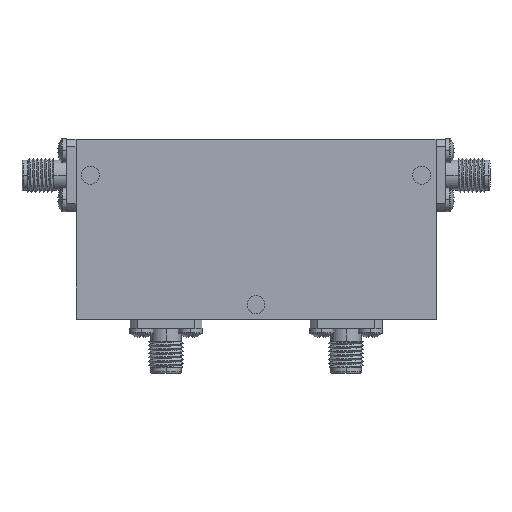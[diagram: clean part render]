
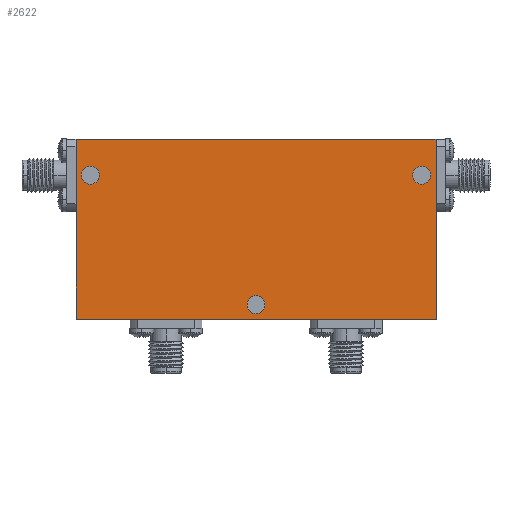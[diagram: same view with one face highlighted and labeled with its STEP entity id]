
A CAD part, top view. The second image highlights one B-rep face of the part: STEP entity #2622.
In plain terms, the highlighted planar face has unit normal (0, 0, 1).
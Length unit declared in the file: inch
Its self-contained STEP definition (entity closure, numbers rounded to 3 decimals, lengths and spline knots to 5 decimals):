
#75 = FACE_OUTER_BOUND ( 'NONE', #1822, .T. ) ;
#114 = DIRECTION ( 'NONE',  ( 0., 0., 1. ) ) ;
#184 = CARTESIAN_POINT ( 'NONE',  ( 0., 0., 0.35 ) ) ;
#218 = CARTESIAN_POINT ( 'NONE',  ( 1.2125, 0.375, 0.35 ) ) ;
#269 = FACE_BOUND ( 'NONE', #1146, .T. ) ;
#289 = LINE ( 'NONE', #2412, #3399 ) ;
#396 = VERTEX_POINT ( 'NONE', #2810 ) ;
#419 = CARTESIAN_POINT ( 'NONE',  ( -1.25, -0.625, 0.35 ) ) ;
#440 = AXIS2_PLACEMENT_3D ( 'NONE', #3109, #114, #1361 ) ;
#454 = EDGE_CURVE ( 'NONE', #841, #1848, #1094, .T. ) ;
#521 = EDGE_CURVE ( 'NONE', #1774, #2096, #289, .T. ) ;
#531 = AXIS2_PLACEMENT_3D ( 'NONE', #1307, #2827, #1628 ) ;
#533 = CARTESIAN_POINT ( 'NONE',  ( 1.25, -0.625, 0.35 ) ) ;
#563 = CARTESIAN_POINT ( 'NONE',  ( 1.25, 0.625, 0.35 ) ) ;
#593 = DIRECTION ( 'NONE',  ( 1., 0., 0. ) ) ;
#775 = EDGE_LOOP ( 'NONE', ( #3607, #3789 ) ) ;
#818 = PLANE ( 'NONE',  #1186 ) ;
#831 = EDGE_CURVE ( 'NONE', #1934, #396, #1648, .T. ) ;
#841 = VERTEX_POINT ( 'NONE', #2848 ) ;
#857 = CARTESIAN_POINT ( 'NONE',  ( 1.15, 0.375, 0.35 ) ) ;
#880 = EDGE_CURVE ( 'NONE', #2157, #2957, #2851, .T. ) ;
#1024 = CIRCLE ( 'NONE', #440, 0.0625 ) ;
#1027 = AXIS2_PLACEMENT_3D ( 'NONE', #2946, #1087, #3437 ) ;
#1039 = EDGE_CURVE ( 'NONE', #1161, #3184, #2847, .T. ) ;
#1063 = CIRCLE ( 'NONE', #531, 0.0625 ) ;
#1087 = DIRECTION ( 'NONE',  ( 0., 0., 1. ) ) ;
#1094 = LINE ( 'NONE', #1407, #2802 ) ;
#1146 = EDGE_LOOP ( 'NONE', ( #1158, #1568 ) ) ;
#1148 = DIRECTION ( 'NONE',  ( 1., 0., 0. ) ) ;
#1158 = ORIENTED_EDGE ( 'NONE', *, *, #2028, .F. ) ;
#1161 = VERTEX_POINT ( 'NONE', #1871 ) ;
#1186 = AXIS2_PLACEMENT_3D ( 'NONE', #184, #2043, #2892 ) ;
#1217 = FACE_BOUND ( 'NONE', #1964, .T. ) ;
#1230 = AXIS2_PLACEMENT_3D ( 'NONE', #1826, #2381, #593 ) ;
#1307 = CARTESIAN_POINT ( 'NONE',  ( -1.15, 0.375, 0.35 ) ) ;
#1309 = CIRCLE ( 'NONE', #2794, 0.0625 ) ;
#1315 = CARTESIAN_POINT ( 'NONE',  ( -1.0875, 0.375, 0.35 ) ) ;
#1352 = EDGE_CURVE ( 'NONE', #2096, #841, #3750, .T. ) ;
#1361 = DIRECTION ( 'NONE',  ( 1., 0., 0. ) ) ;
#1407 = CARTESIAN_POINT ( 'NONE',  ( -1.25, 0.625, 0.35 ) ) ;
#1469 = CARTESIAN_POINT ( 'NONE',  ( -1.25, -0.625, 0.35 ) ) ;
#1568 = ORIENTED_EDGE ( 'NONE', *, *, #1039, .F. ) ;
#1628 = DIRECTION ( 'NONE',  ( 1., 0., 0. ) ) ;
#1648 = CIRCLE ( 'NONE', #2485, 0.0625 ) ;
#1676 = VECTOR ( 'NONE', #2375, 39.37008 ) ;
#1755 = DIRECTION ( 'NONE',  ( 0., 0., 1. ) ) ;
#1774 = VERTEX_POINT ( 'NONE', #533 ) ;
#1781 = DIRECTION ( 'NONE',  ( 1., 0., 0. ) ) ;
#1822 = EDGE_LOOP ( 'NONE', ( #3646, #2771, #3755, #2692 ) ) ;
#1826 = CARTESIAN_POINT ( 'NONE',  ( 1.15, 0.375, 0.35 ) ) ;
#1848 = VERTEX_POINT ( 'NONE', #419 ) ;
#1862 = LINE ( 'NONE', #1469, #3251 ) ;
#1871 = CARTESIAN_POINT ( 'NONE',  ( 1.0875, 0.375, 0.35 ) ) ;
#1934 = VERTEX_POINT ( 'NONE', #2618 ) ;
#1964 = EDGE_LOOP ( 'NONE', ( #2644, #2259 ) ) ;
#2028 = EDGE_CURVE ( 'NONE', #3184, #1161, #1309, .T. ) ;
#2043 = DIRECTION ( 'NONE',  ( 0., 0., 1. ) ) ;
#2096 = VERTEX_POINT ( 'NONE', #563 ) ;
#2157 = VERTEX_POINT ( 'NONE', #3768 ) ;
#2259 = ORIENTED_EDGE ( 'NONE', *, *, #2416, .F. ) ;
#2375 = DIRECTION ( 'NONE',  ( -1., 0., 0. ) ) ;
#2381 = DIRECTION ( 'NONE',  ( 0., 0., 1. ) ) ;
#2412 = CARTESIAN_POINT ( 'NONE',  ( 1.25, 0.625, 0.35 ) ) ;
#2416 = EDGE_CURVE ( 'NONE', #396, #1934, #1024, .T. ) ;
#2485 = AXIS2_PLACEMENT_3D ( 'NONE', #2552, #3738, #3173 ) ;
#2552 = CARTESIAN_POINT ( 'NONE',  ( 0., -0.525, 0.35 ) ) ;
#2618 = CARTESIAN_POINT ( 'NONE',  ( 0.0625, -0.525, 0.35 ) ) ;
#2622 = ADVANCED_FACE ( 'NONE', ( #269, #1217, #3615, #75 ), #818, .T. ) ;
#2644 = ORIENTED_EDGE ( 'NONE', *, *, #831, .F. ) ;
#2692 = ORIENTED_EDGE ( 'NONE', *, *, #3232, .T. ) ;
#2723 = DIRECTION ( 'NONE',  ( 0., 1., 0. ) ) ;
#2771 = ORIENTED_EDGE ( 'NONE', *, *, #1352, .T. ) ;
#2794 = AXIS2_PLACEMENT_3D ( 'NONE', #857, #1755, #1148 ) ;
#2802 = VECTOR ( 'NONE', #2870, 39.37008 ) ;
#2810 = CARTESIAN_POINT ( 'NONE',  ( -0.0625, -0.525, 0.35 ) ) ;
#2827 = DIRECTION ( 'NONE',  ( 0., 0., 1. ) ) ;
#2847 = CIRCLE ( 'NONE', #1230, 0.0625 ) ;
#2848 = CARTESIAN_POINT ( 'NONE',  ( -1.25, 0.625, 0.35 ) ) ;
#2851 = CIRCLE ( 'NONE', #1027, 0.0625 ) ;
#2870 = DIRECTION ( 'NONE',  ( 0., -1., 0. ) ) ;
#2892 = DIRECTION ( 'NONE',  ( 1., 0., 0. ) ) ;
#2946 = CARTESIAN_POINT ( 'NONE',  ( -1.15, 0.375, 0.35 ) ) ;
#2957 = VERTEX_POINT ( 'NONE', #1315 ) ;
#3004 = EDGE_CURVE ( 'NONE', #2957, #2157, #1063, .T. ) ;
#3109 = CARTESIAN_POINT ( 'NONE',  ( 0., -0.525, 0.35 ) ) ;
#3173 = DIRECTION ( 'NONE',  ( 1., 0., 0. ) ) ;
#3184 = VERTEX_POINT ( 'NONE', #218 ) ;
#3232 = EDGE_CURVE ( 'NONE', #1848, #1774, #1862, .T. ) ;
#3251 = VECTOR ( 'NONE', #1781, 39.37008 ) ;
#3399 = VECTOR ( 'NONE', #2723, 39.37008 ) ;
#3437 = DIRECTION ( 'NONE',  ( 1., 0., 0. ) ) ;
#3547 = CARTESIAN_POINT ( 'NONE',  ( -1.25, 0.625, 0.35 ) ) ;
#3607 = ORIENTED_EDGE ( 'NONE', *, *, #3004, .F. ) ;
#3615 = FACE_BOUND ( 'NONE', #775, .T. ) ;
#3646 = ORIENTED_EDGE ( 'NONE', *, *, #521, .T. ) ;
#3738 = DIRECTION ( 'NONE',  ( 0., 0., 1. ) ) ;
#3750 = LINE ( 'NONE', #3547, #1676 ) ;
#3755 = ORIENTED_EDGE ( 'NONE', *, *, #454, .T. ) ;
#3768 = CARTESIAN_POINT ( 'NONE',  ( -1.2125, 0.375, 0.35 ) ) ;
#3789 = ORIENTED_EDGE ( 'NONE', *, *, #880, .F. ) ;
